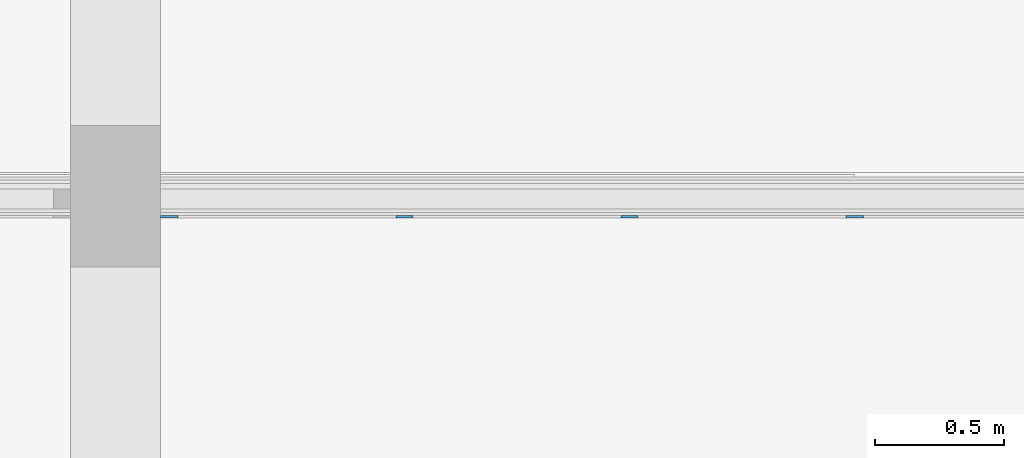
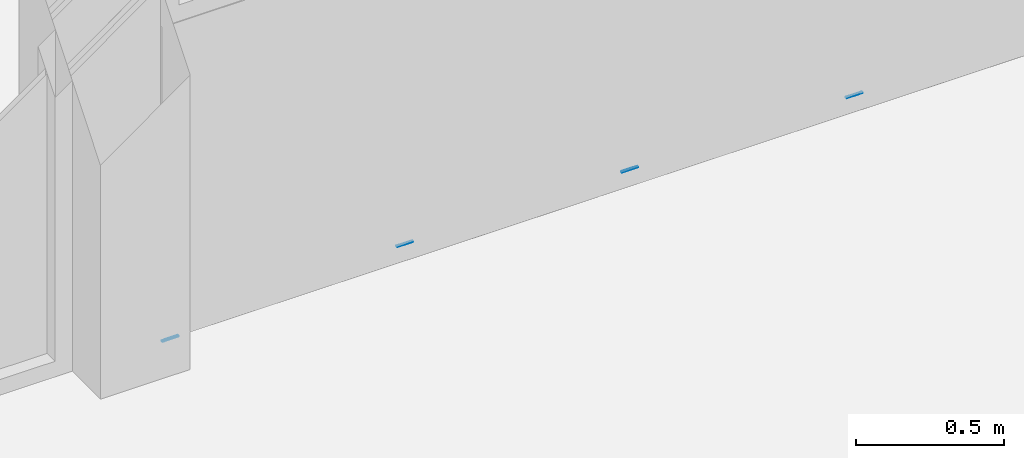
# One storey, part 17 of 54: 5 walls.
"""IFC2X3 building model written with IfcOpenShell, lengths in millimetres."""

from ifc_helpers import new_model, entity, si_unit, converted_unit, derived_unit, money_unit, direction, frame, origin_with_axes, place, context, subcontext, project, spatial, open_shell, surface_model, material, type_object, element, save


model = new_model("IFC2X3")

# Units and contexts
model_context = context("Model", 3, precision=0.01, world=origin_with_axes(), true_north=direction((0.0, 1.0)))
body_context = subcontext(model_context, "Body", "Model", "MODEL_VIEW")
ifc_project = project(units=[si_unit("LENGTHUNIT", "METRE", prefix="MILLI"), si_unit("AREAUNIT", "SQUARE_METRE"), si_unit("VOLUMEUNIT", "CUBIC_METRE"), converted_unit("PLANEANGLEUNIT", "DEGREE", entity("IfcPlaneAngleMeasure", 0.0174532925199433), si_unit("PLANEANGLEUNIT", "RADIAN"), dimensions=[0, 0, 0, 0, 0, 0, 0]), money_unit("EUR"), converted_unit("TIMEUNIT", "Year", entity("IfcTimeMeasure", 31557600.0), si_unit("TIMEUNIT", "SECOND"), dimensions=[0, 0, 1, 0, 0, 0, 0]), si_unit("MASSUNIT", "GRAM", prefix="KILO"), si_unit("THERMODYNAMICTEMPERATUREUNIT", "DEGREE_CELSIUS"), si_unit("LUMINOUSINTENSITYUNIT", "LUMEN"), si_unit("ENERGYUNIT", "JOULE", prefix="MEGA"), derived_unit("THERMALCONDUCTANCEUNIT", [(si_unit("POWERUNIT", "WATT"), 1), (si_unit("LENGTHUNIT", "METRE"), -1), (si_unit("THERMODYNAMICTEMPERATUREUNIT", "KELVIN"), -1)]), derived_unit("SPECIFICHEATCAPACITYUNIT", [(si_unit("ENERGYUNIT", "JOULE"), 1), (si_unit("MASSUNIT", "GRAM", prefix="KILO"), -1), (si_unit("THERMODYNAMICTEMPERATUREUNIT", "KELVIN"), -1)]), derived_unit("MASSDENSITYUNIT", [(si_unit("MASSUNIT", "GRAM", prefix="KILO"), 1), (si_unit("VOLUMEUNIT", "CUBIC_METRE"), -1)])], contexts=[model_context])

# Site, building, storey
site_placement = place(None, origin_with_axes())
site = spatial("IfcSite", under=ifc_project, at=site_placement, Name="<site naam>", CompositionType="ELEMENT")
building_placement = place(site_placement, origin_with_axes())
building = spatial("IfcBuilding", under=site, at=building_placement, Name="<Naam gebouw>", CompositionType="ELEMENT")
storey_placement = place(building_placement, frame((0.0, 0.0, 8500.0), z_axis=(0.0, 0.0, 1.0), x_axis=(1.0, 0.0, 0.0)))
storey = spatial("IfcBuildingStorey", under=building, at=storey_placement, Name="02 2e verdieping", CompositionType="ELEMENT", Elevation=8500.0)

# Walls
ifc_material = material(Name="ALG - BUITENAFWERKING")
wall_type = type_object("IfcWallType", Name="ALG - BUITENAFWERKING 10", PredefinedType="NOTDEFINED")
for number, where, z_axis, x_axis, name in (
    (1, (32175.00010281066, 11925.00000000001, 0.0), (0.0, 0.0, 1.0), (1.0, 0.0, 0.0), "42_Binnenwand_ALG"),
    (2, (33966.46705454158, 11925.00000000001, 70.00000000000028), (0.0, 0.0, 1.0), (1.0, 0.0, 0.0), "42_Binnenwand_ALG"),
    (3, (33966.46709155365, 11925.00000000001, 70.00000000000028), (0.0, 0.0, 1.0), (1.0, 0.0, 0.0), "42_Binnenwand_ALG"),
):
    element("IfcWall", number, at=place(storey_placement, frame(where, z_axis=z_axis, x_axis=x_axis)), inside=storey, type_object=wall_type, material=ifc_material, Name=name, context=body_context, shape_type="SurfaceModel", body=[
        surface_model("IfcShellBasedSurfaceModel", [(0.0, -9.999999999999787, 0.0), (67.00000000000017, -9.999999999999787, 0.0), (67.00000000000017, 0.0, 0.0), (0.0, 0.0, 0.0)], [open_shell([[[0, 1, 2, 3]]])]),
    ])
wall_1_placement = place(storey_placement, frame((33157.28211549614, 11925.00000000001, 70.00000000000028), z_axis=(0.0, 0.0, 1.0), x_axis=(-1.0, 0.0, 0.0)))
element("IfcWall", 4, at=wall_1_placement, inside=storey, type_object=wall_type, material=ifc_material, Name="42_Binnenwand_ALG", context=body_context, shape_type="SurfaceModel", body=[
    surface_model("IfcShellBasedSurfaceModel", [(0.0, 0.0, 0.0), (67.00000000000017, 0.0, 0.0), (67.00000000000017, 9.999999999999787, 0.0), (0.0, 9.999999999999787, 0.0)], [open_shell([[[0, 1, 2, 3]]])]),
])
wall_2_placement = place(storey_placement, frame((34842.71788450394, 11925.00000000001, 70.00000000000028), z_axis=(0.0, 0.0, 1.0), x_axis=(1.0, 0.0, 0.0)))
element("IfcWall", 5, at=wall_2_placement, inside=storey, type_object=wall_type, material=ifc_material, Name="42_Binnenwand_ALG", context=body_context, shape_type="SurfaceModel", body=[
    surface_model("IfcShellBasedSurfaceModel", [(0.0, -9.999999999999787, 0.0), (67.00000000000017, -9.999999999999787, 0.0), (67.00000000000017, 0.0, 0.0), (0.0, 0.0, 0.0)], [open_shell([[[0, 1, 2, 3]]])]),
])

save(model, "model.ifc")
